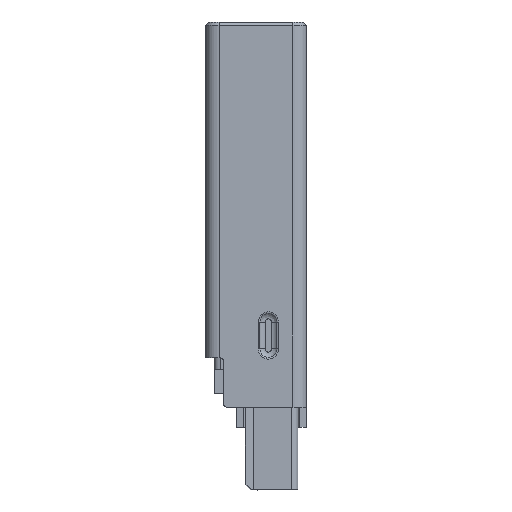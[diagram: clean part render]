
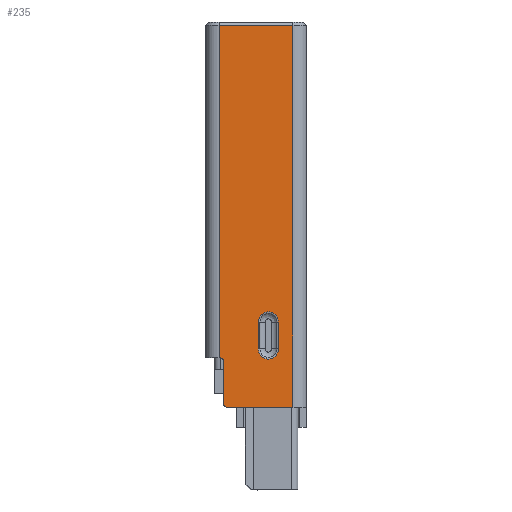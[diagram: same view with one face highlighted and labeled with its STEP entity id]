
A CAD part, left-side view. The second image highlights one B-rep face of the part: STEP entity #235.
In plain terms, the highlighted planar face has unit normal (-1, 0, 0).
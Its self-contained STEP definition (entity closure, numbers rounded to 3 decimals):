
#235=ADVANCED_FACE('NONE',(#1383,#1384),#1385,.F.);
#1383=FACE_OUTER_BOUND('',#4359,.T.);
#1384=FACE_BOUND('',#4360,.T.);
#1385=PLANE('',#4361);
#4359=EDGE_LOOP('',(#20159,#20160,#20161,#20162,#20163,#20164,#20165,#20166));
#4360=EDGE_LOOP('',(#20167,#20168,#20169,#20170));
#4361=AXIS2_PLACEMENT_3D('',#20171,#20172,#20173);
#20159=ORIENTED_EDGE('',*,*,#26430,.F.);
#20160=ORIENTED_EDGE('',*,*,#26746,.F.);
#20161=ORIENTED_EDGE('',*,*,#26722,.F.);
#20162=ORIENTED_EDGE('',*,*,#26747,.T.);
#20163=ORIENTED_EDGE('',*,*,#26748,.F.);
#20164=ORIENTED_EDGE('',*,*,#26749,.F.);
#20165=ORIENTED_EDGE('',*,*,#26702,.F.);
#20166=ORIENTED_EDGE('',*,*,#26707,.F.);
#20167=ORIENTED_EDGE('',*,*,#26714,.F.);
#20168=ORIENTED_EDGE('',*,*,#26712,.F.);
#20169=ORIENTED_EDGE('',*,*,#26710,.F.);
#20170=ORIENTED_EDGE('',*,*,#26715,.F.);
#20171=CARTESIAN_POINT('',(-6.0,-1.716,0.191));
#20172=DIRECTION('',(1.0,-0.0,0.0));
#20173=DIRECTION('',(0.0,1.0,-0.0));
#26430=EDGE_CURVE('NONE',#29047,#29049,#29050,.T.);
#26702=EDGE_CURVE('NONE',#29497,#29498,#29499,.T.);
#26707=EDGE_CURVE('NONE',#29049,#29497,#29506,.T.);
#26710=EDGE_CURVE('NONE',#29509,#29507,#29511,.T.);
#26712=EDGE_CURVE('NONE',#29507,#29512,#29514,.T.);
#26714=EDGE_CURVE('NONE',#29512,#29515,#29517,.T.);
#26715=EDGE_CURVE('NONE',#29515,#29509,#29518,.T.);
#26722=EDGE_CURVE('NONE',#29529,#29531,#29532,.T.);
#26746=EDGE_CURVE('NONE',#29531,#29047,#29570,.T.);
#26747=EDGE_CURVE('NONE',#29529,#29571,#29572,.T.);
#26748=EDGE_CURVE('NONE',#29573,#29571,#29574,.T.);
#26749=EDGE_CURVE('NONE',#29498,#29573,#29575,.T.);
#29047=VERTEX_POINT('NONE',#33137);
#29049=VERTEX_POINT('NONE',#33139);
#29050=LINE('',#33140,#33141);
#29497=VERTEX_POINT('NONE',#34155);
#29498=VERTEX_POINT('NONE',#34156);
#29499=LINE('',#34157,#34158);
#29506=CIRCLE('',#34168,0.15);
#29507=VERTEX_POINT('NONE',#34169);
#29509=VERTEX_POINT('NONE',#34171);
#29511=LINE('',#34173,#34174);
#29512=VERTEX_POINT('NONE',#34175);
#29514=(B_SPLINE_CURVE(3,(#34178,#34179,#34180,#34181,#34182,#34183,#34184),.UNSPECIFIED.,.F.,.F.)B_SPLINE_CURVE_WITH_KNOTS((4,3,4),(0.0,0.5,1.0),.UNSPECIFIED.)RATIONAL_B_SPLINE_CURVE((1.0,0.805,0.805,1.0,0.805,0.805,1.0))BOUNDED_CURVE()REPRESENTATION_ITEM('')GEOMETRIC_REPRESENTATION_ITEM()CURVE());
#29515=VERTEX_POINT('NONE',#34191);
#29517=LINE('',#34193,#34194);
#29518=(B_SPLINE_CURVE(3,(#34196,#34197,#34198,#34199),.UNSPECIFIED.,.F.,.F.)B_SPLINE_CURVE_WITH_KNOTS((4,4),(0.0,1.0),.UNSPECIFIED.)RATIONAL_B_SPLINE_CURVE((1.0,0.333,0.333,1.0))BOUNDED_CURVE()REPRESENTATION_ITEM('')GEOMETRIC_REPRESENTATION_ITEM()CURVE());
#29529=VERTEX_POINT('NONE',#34220);
#29531=VERTEX_POINT('NONE',#34225);
#29532=LINE('',#34226,#34227);
#29570=LINE('',#34281,#34282);
#29571=VERTEX_POINT('NONE',#34283);
#29572=LINE('',#34284,#34285);
#29573=VERTEX_POINT('NONE',#34286);
#29574=LINE('',#34287,#34288);
#29575=CIRCLE('',#34289,0.15);
#33137=CARTESIAN_POINT('',(-6.0,-1.65,-17.2));
#33139=CARTESIAN_POINT('',(-6.0,1.3,-17.2));
#33140=CARTESIAN_POINT('',(-6.0,0.,-17.2));
#33141=VECTOR('',#43384,1000.0);
#34155=CARTESIAN_POINT('',(-6.0,1.45,-17.05));
#34156=CARTESIAN_POINT('',(-6.0,1.45,-15.15));
#34157=CARTESIAN_POINT('',(-6.0,1.45,-8.675));
#34158=VECTOR('',#43770,1000.0);
#34168=AXIS2_PLACEMENT_3D('',#43777,#43778,#43779);
#34169=CARTESIAN_POINT('',(-6.,-0.098,-14.6));
#34171=CARTESIAN_POINT('',(-6.,-0.098,-13.4));
#34173=CARTESIAN_POINT('',(-6.,-0.098,-14.6));
#34174=VECTOR('',#43786,1000.0);
#34175=CARTESIAN_POINT('',(-6.0,-1.002,-14.6));
#34178=CARTESIAN_POINT('',(-6.,-0.098,-14.6));
#34179=CARTESIAN_POINT('',(-6.0,-0.098,-14.865));
#34180=CARTESIAN_POINT('',(-6.0,-0.285,-15.052));
#34181=CARTESIAN_POINT('',(-6.0,-0.55,-15.052));
#34182=CARTESIAN_POINT('',(-6.0,-0.815,-15.052));
#34183=CARTESIAN_POINT('',(-6.0,-1.002,-14.865));
#34184=CARTESIAN_POINT('',(-6.0,-1.002,-14.6));
#34191=CARTESIAN_POINT('',(-6.0,-1.002,-13.4));
#34193=CARTESIAN_POINT('',(-6.0,-1.002,-8.675));
#34194=VECTOR('',#43793,1000.0);
#34196=CARTESIAN_POINT('',(-6.0,-1.002,-13.4));
#34197=CARTESIAN_POINT('',(-6.0,-1.002,-12.495));
#34198=CARTESIAN_POINT('',(-6.0,-0.098,-12.495));
#34199=CARTESIAN_POINT('',(-6.,-0.098,-13.4));
#34220=CARTESIAN_POINT('',(-6.,1.65,-0.15));
#34225=CARTESIAN_POINT('',(-6.,-1.65,-0.15));
#34226=CARTESIAN_POINT('',(-6.0,0.,-0.15));
#34227=VECTOR('',#43801,1000.0);
#34281=CARTESIAN_POINT('',(-6.0,-1.65,-8.675));
#34282=VECTOR('',#43839,1000.0);
#34283=CARTESIAN_POINT('',(-6.0,1.65,-15.));
#34284=CARTESIAN_POINT('',(-6.0,1.65,0.191));
#34285=VECTOR('',#43840,1000.0);
#34286=CARTESIAN_POINT('',(-6.,1.6,-15.));
#34287=CARTESIAN_POINT('',(-6.0,0.,-15.));
#34288=VECTOR('',#43841,1000.0);
#34289=AXIS2_PLACEMENT_3D('',#43842,#43843,#43844);
#43384=DIRECTION('',(0.0,1.0,0.0));
#43770=DIRECTION('',(-0.0,-0.0,1.0));
#43777=CARTESIAN_POINT('',(-6.0,1.3,-17.05));
#43778=DIRECTION('',(1.0,0.,0.0));
#43779=DIRECTION('',(0.,1.0,0.0));
#43786=DIRECTION('',(-0.0,0.,-1.0));
#43793=DIRECTION('',(-0.0,-0.0,1.0));
#43801=DIRECTION('',(-0.0,-1.0,-0.0));
#43839=DIRECTION('',(0.0,0.0,-1.0));
#43840=DIRECTION('',(0.0,0.0,-1.0));
#43841=DIRECTION('',(0.0,1.0,0.0));
#43842=CARTESIAN_POINT('',(-6.,1.6,-15.15));
#43843=DIRECTION('',(-1.0,0.,0.0));
#43844=DIRECTION('',(0.,1.0,0.0));
